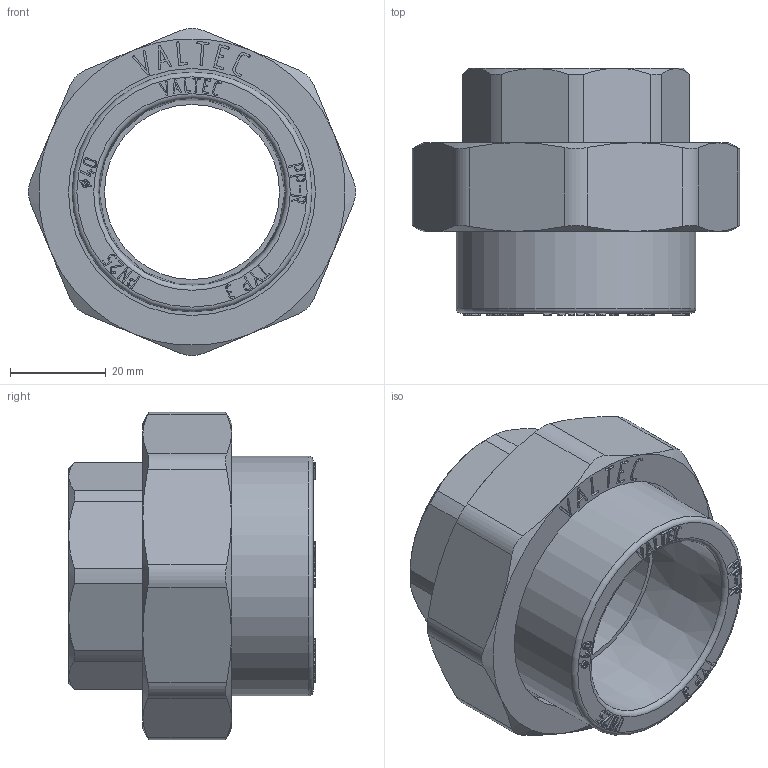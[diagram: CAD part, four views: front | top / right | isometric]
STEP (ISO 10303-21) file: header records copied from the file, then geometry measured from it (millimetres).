
FILE_DESCRIPTION(('STEP AP203'), '1');
FILE_NAME('VTp.762.0.04007', '2026-07-17T12:37:51', ('ledenevaEA'), (''), 'C3D Converter', 'C3D Toolkit', '');
FILE_SCHEMA(('CONFIG_CONTROL_DESIGN'));
Length unit declared in the file: millimetre
Products named in the file (1): ВР.302634.114.000 СБ
Bounding box: 68.28 x 51.5 x 68.28 mm (x, y, z)
Volume: 61066 mm3; surface area: 20778.6 mm2
Topology: 1 solids, 1 shells, 711 faces, 1975 edges, 1309 vertices
Faces by surface type: extrusion 383, plane 283, cone 21, cylinder 20, torus 4
Full cylindrical faces by diameter (mm): 36.5 x1, 38.953 x1, 50 x1, 51.5 x1
Entity records: 24318 total; most frequent: CARTESIAN_POINT 7895, ORIENTED_EDGE 3886, DIRECTION 2193, EDGE_CURVE 1943, VECTOR 1471, VERTEX_POINT 1298, B_SPLINE_CURVE_WITH_KNOTS 1195, LINE 1088
